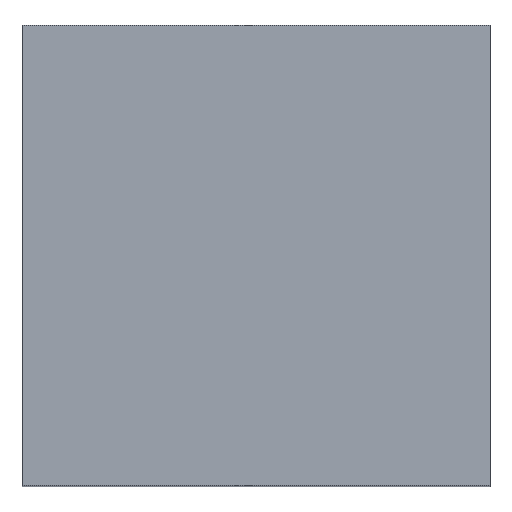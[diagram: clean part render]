
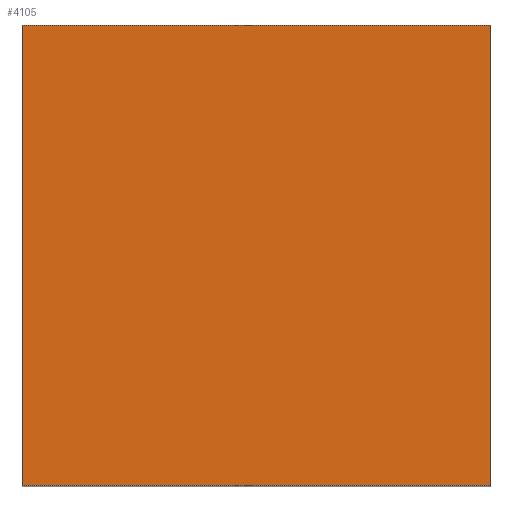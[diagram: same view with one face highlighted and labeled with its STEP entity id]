
A CAD part, top view. The second image highlights one B-rep face of the part: STEP entity #4105.
In plain terms, the highlighted planar face has unit normal (0, 0, 1).
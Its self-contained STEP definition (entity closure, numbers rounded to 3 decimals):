
#608=FACE_OUTER_BOUND('',#877,.T.);
#877=EDGE_LOOP('',(#3691,#3692,#3693,#3694));
#1318=LINE('',#6869,#1765);
#1320=LINE('',#6873,#1767);
#1322=LINE('',#6877,#1769);
#1324=LINE('',#6880,#1771);
#1765=VECTOR('',#5705,10.);
#1767=VECTOR('',#5709,10.);
#1769=VECTOR('',#5713,10.);
#1771=VECTOR('',#5717,10.);
#2116=VERTEX_POINT('',#6866);
#2117=VERTEX_POINT('',#6868);
#2118=VERTEX_POINT('',#6872);
#2119=VERTEX_POINT('',#6876);
#2638=EDGE_CURVE('',#2117,#2116,#1318,.T.);
#2640=EDGE_CURVE('',#2118,#2117,#1320,.T.);
#2642=EDGE_CURVE('',#2119,#2118,#1322,.T.);
#2644=EDGE_CURVE('',#2116,#2119,#1324,.T.);
#3691=ORIENTED_EDGE('',*,*,#2644,.T.);
#3692=ORIENTED_EDGE('',*,*,#2642,.T.);
#3693=ORIENTED_EDGE('',*,*,#2640,.T.);
#3694=ORIENTED_EDGE('',*,*,#2638,.T.);
#3880=PLANE('',#4559);
#4105=ADVANCED_FACE('',(#608),#3880,.T.);
#4559=AXIS2_PLACEMENT_3D('',#6881,#5718,#5719);
#5705=DIRECTION('',(0.,1.,0.));
#5709=DIRECTION('',(1.,0.,0.));
#5713=DIRECTION('',(0.,-1.,0.));
#5717=DIRECTION('',(-1.,0.,0.));
#5718=DIRECTION('center_axis',(0.,0.,1.));
#5719=DIRECTION('ref_axis',(1.,0.,0.));
#6866=CARTESIAN_POINT('',(1051.5,675.,1500.));
#6868=CARTESIAN_POINT('',(1051.5,-1000.,1500.));
#6869=CARTESIAN_POINT('',(1051.5,675.,1500.));
#6872=CARTESIAN_POINT('',(-651.5,-1000.,1500.));
#6873=CARTESIAN_POINT('',(1051.5,-1000.,1500.));
#6876=CARTESIAN_POINT('',(-651.5,675.,1500.));
#6877=CARTESIAN_POINT('',(-651.5,-1000.,1500.));
#6880=CARTESIAN_POINT('',(-651.5,675.,1500.));
#6881=CARTESIAN_POINT('Origin',(200.,-162.5,1500.));
